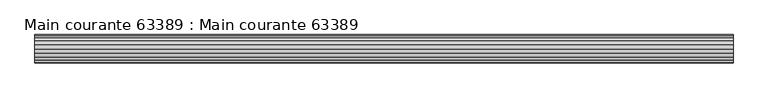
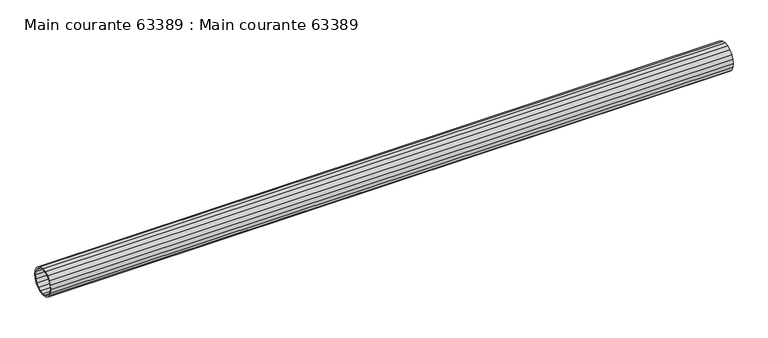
"""IFC4 building model written with IfcOpenShell, lengths in millimetres: beam geometry, Main courante 63389 : Main courante 63389."""

from ifc_helpers import new_model, si_unit, frame, origin, place, context, project, spatial, polyline, outline, extrude, source, transform, mapped, element, save


def main_courante_63389_main_courante_63389_e2c9f11f(model_context):
    return source(origin(), model_context, "Body", "SweptSolid", [
        extrude(outline(polyline([(-35766.5, 8765.0), (-35765.3180149, 8772.4627604), (-35761.8877604, 8779.1950138), (-35756.5450138, 8784.5377604), (-35749.8127604, 8787.9680149), (-35742.35, 8789.15), (-35734.8872396, 8787.9680149), (-35728.1549862, 8784.5377604), (-35722.8122396, 8779.1950138), (-35719.3819851, 8772.4627604), (-35718.2, 8765.0), (-35719.3819851, 8757.5372396), (-35722.8122396, 8750.8049862), (-35728.1549862, 8745.4622396), (-35734.8872396, 8742.0319851), (-35742.35, 8740.85), (-35749.8127604, 8742.0319851), (-35756.5450138, 8745.4622396), (-35761.8877604, 8750.8049862), (-35765.3180149, 8757.5372396), (-35766.5, 8765.0)]), holes=[polyline([(-35720.7, 8765.0), (-35721.7596264, 8771.6902179), (-35724.8347821, 8777.7255507), (-35729.6244493, 8782.5152179), (-35735.6597821, 8785.5903736), (-35742.35, 8786.65), (-35749.0402179, 8785.5903736), (-35755.0755507, 8782.5152179), (-35759.8652179, 8777.7255507), (-35762.9403736, 8771.6902179), (-35764.0, 8765.0), (-35762.9403736, 8758.3097821), (-35759.8652179, 8752.2744493), (-35755.0755507, 8747.4847821), (-35749.0402179, 8744.4096264), (-35742.35, 8743.35), (-35735.6597821, 8744.4096264), (-35729.6244493, 8747.4847821), (-35724.8347821, 8752.2744493), (-35721.7596264, 8758.3097821), (-35720.7, 8765.0)])]), frame((2478.4999999, 0.0, 0.0), z_axis=(1.0, 0.0, 0.0), x_axis=(0.0, 1.0, 0.0)), (0.0, 0.0, 1.0), 1192.0),
    ])


if __name__ == "__main__":
    model = new_model("IFC4")
    model_context = context("Model", 3, world=origin())
    ifc_project = project(units=[si_unit("LENGTHUNIT", "METRE", prefix="MILLI")], contexts=[model_context])
    site = spatial("IfcSite", under=ifc_project)
    building = spatial("IfcBuilding", under=site)
    placement = place(None, origin())
    main_courante_63389_main_courante_63389_shape = main_courante_63389_main_courante_63389_e2c9f11f(model_context)
    element("IfcBeam", 1, ObjectType="Main courante 63389 : Main courante 63389", at=placement, inside=building, context=model_context, shape_type="MappedRepresentation", body=[
        mapped(main_courante_63389_main_courante_63389_shape, transform((0.0, 0.0, 0.0), x_axis=(1.0, 0.0, 0.0), y_axis=(0.0, 1.0, 0.0), z_axis=(0.0, 0.0, 1.0))),
    ])
    save(model, "model.ifc")
